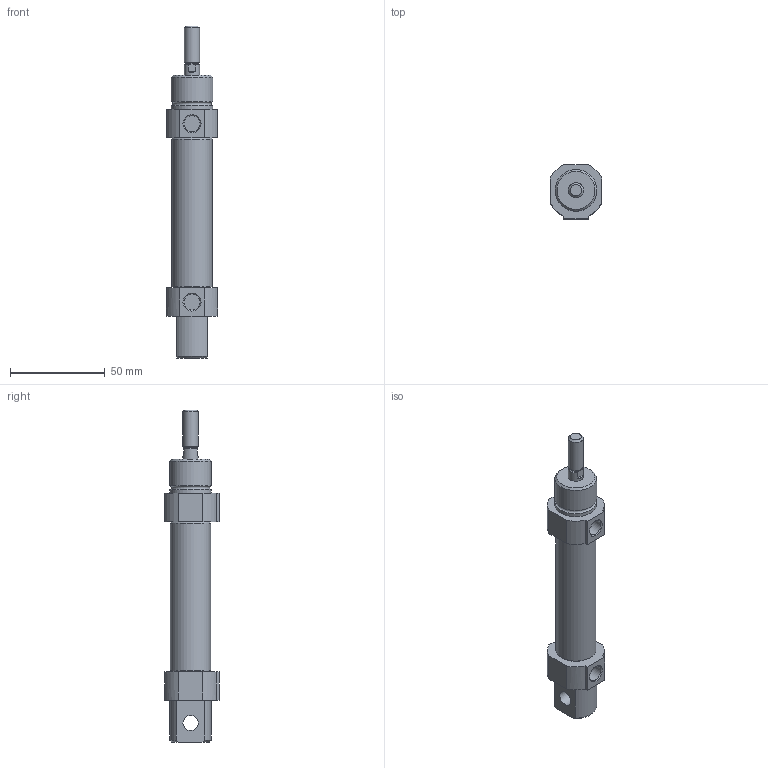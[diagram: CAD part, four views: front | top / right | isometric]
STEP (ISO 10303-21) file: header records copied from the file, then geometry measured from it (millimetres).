
FILE_DESCRIPTION((''),'2;1');
FILE_NAME('I:\3D電子目錄\氣缸\SDA\SDA20\SDA20\SDA20x50.stp','2007-08-06T10:32:06',('Administrator'),(''),'Autodesk Inventor 2008','Autodesk Inventor 2008','');
FILE_SCHEMA(('AUTOMOTIVE_DESIGN { 1 0 10303 214 1 1 1 1 }'));
Length unit declared in the file: millimetre
Products named in the file (1): SDA20X50
Bounding box: 27 x 28.5 x 175 mm (x, y, z)
Volume: 61105.1 mm3; surface area: 14367.3 mm2
Topology: 1 solids, 1 shells, 62 faces, 146 edges, 94 vertices
Faces by surface type: plane 30, cylinder 19, cone 10, bspline 2, torus 1
Full cylindrical faces by diameter (mm): 6.6 x1, 8 x3, 8.5 x2, 21.2 x1, 22 x2
Entity records: 1718 total; most frequent: CARTESIAN_POINT 307, DIRECTION 298, ORIENTED_EDGE 258, EDGE_CURVE 129, AXIS2_PLACEMENT_3D 116, VERTEX_POINT 93, EDGE_LOOP 88, VECTOR 66
